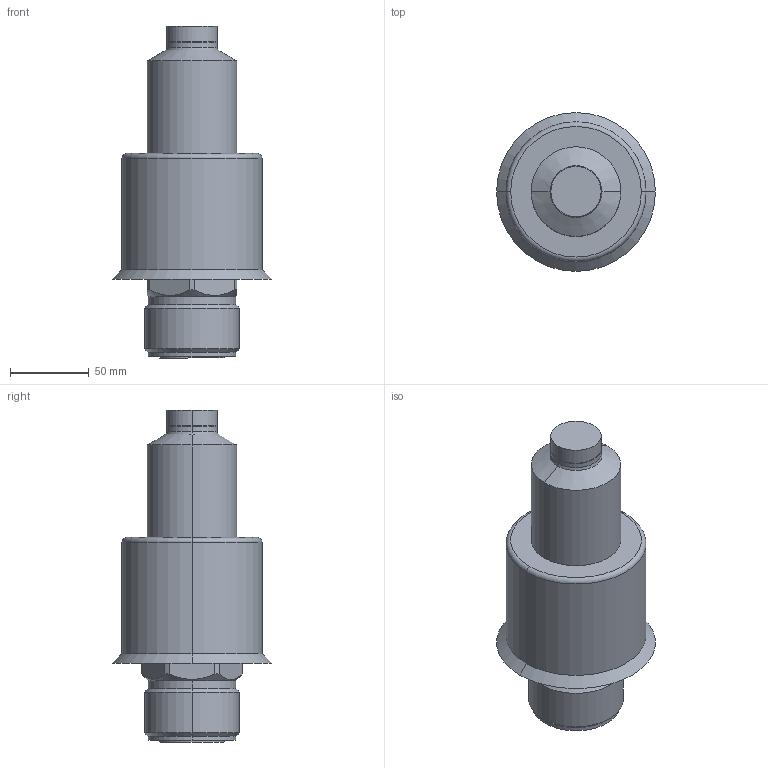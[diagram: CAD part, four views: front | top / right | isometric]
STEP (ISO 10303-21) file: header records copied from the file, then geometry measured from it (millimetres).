
FILE_DESCRIPTION (( 'STEP AP214' ), '1' );
FILE_NAME ('T24_CLOSED_161_BAND.STEP', '2009-07-06T18:14:03', ( 'Synventive Molding Solutions' ), ( 'Synventive Molding Solutions' ), 'SwSTEP 2.0', 'SolidWorks 2008', '' );
FILE_SCHEMA (( 'AUTOMOTIVE_DESIGN' ));
Length unit declared in the file: millimetre
Products named in the file (1): T24_CLOSED_161_BAND
Bounding box: 101 x 101 x 211 mm (x, y, z)
Volume: 1160185.6 mm3; surface area: 97333.5 mm2
Topology: 3 solids, 3 shells, 244 faces, 598 edges, 368 vertices
Faces by surface type: cylinder 95, plane 94, torus 35, cone 16, sphere 2, bspline 2
Entity records: 10602 total; most frequent: CARTESIAN_POINT 2017, DIRECTION 1299, ORIENTED_EDGE 1192, EDGE_CURVE 596, AXIS2_PLACEMENT_3D 508, VERTEX_POINT 368, LINE 283, VECTOR 283
